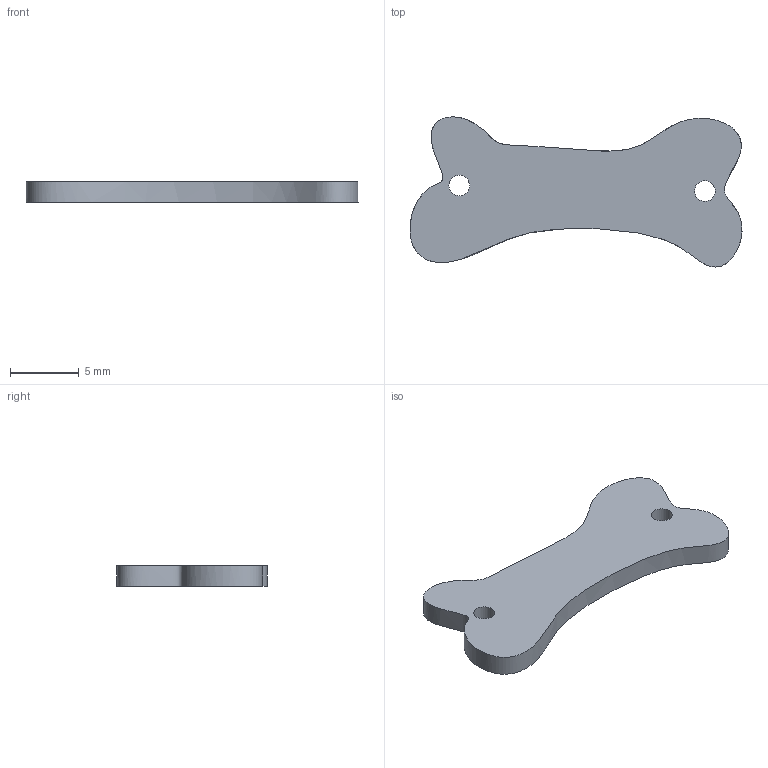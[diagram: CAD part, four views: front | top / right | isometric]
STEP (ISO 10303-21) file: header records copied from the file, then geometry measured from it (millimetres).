
FILE_DESCRIPTION(/* description */ ('','CAx-IF Rec.Pracs.---Representation and Presentation of Product Manufacturing Information (PMI)---4.0---2014-10-13'),/* implementation_level */ '2;1');
FILE_NAME(/* name */ 'Skelette_Unterarm.step',/* time_stamp */ '2025-01-30T08:40:28+01:00',/* author */ (''),/* organization */ (''),/* preprocessor_version */ 'ST-DEVELOPER v20',/* originating_system */ 'Autodesk Translation Framework v13.20.0.188',/* authorisation */ '');
FILE_SCHEMA (('AP242_MANAGED_MODEL_BASED_3D_ENGINEERING_MIM_LF { 1 0 10303 442 1 1 4 }'));
Length unit declared in the file: millimetre
Products named in the file (1): 01_Skelette_Unterarm
Bounding box: 24.06 x 10.88 x 1.5 mm (x, y, z)
Volume: 324.2 mm3; surface area: 461.4 mm2
Topology: 1 solids, 1 shells, 5 faces, 9 edges, 6 vertices
Faces by surface type: cylinder 2, plane 2, bspline 1
Full cylindrical faces by diameter (mm): 1.5 x2
Entity records: 535 total; most frequent: CARTESIAN_POINT 398, DIRECTION 21, ORIENTED_EDGE 18, EDGE_LOOP 9, EDGE_CURVE 9, AXIS2_PLACEMENT_3D 9, VERTEX_POINT 6, FACE_OUTER_BOUND 5
